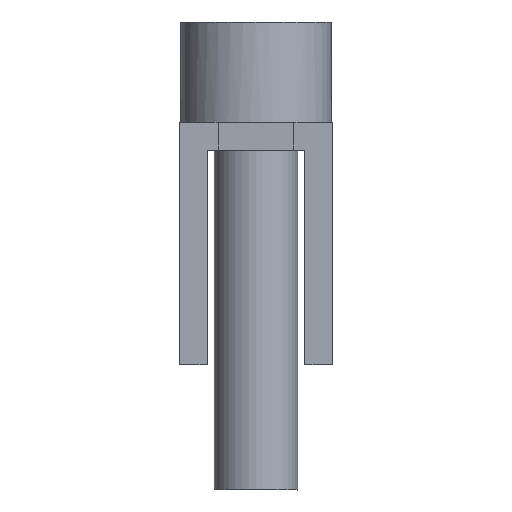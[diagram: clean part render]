
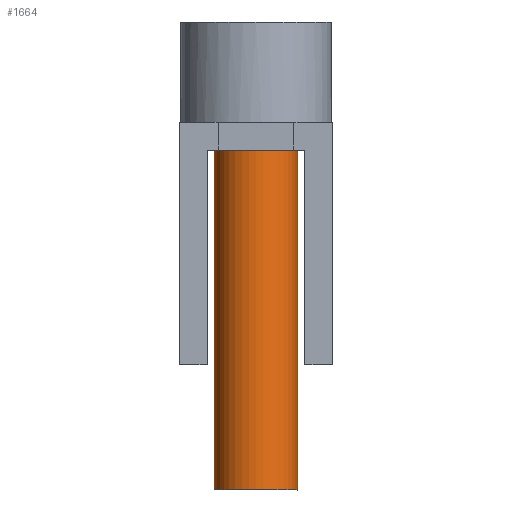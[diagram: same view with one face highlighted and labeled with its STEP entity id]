
A CAD part, left-side view. The second image highlights one B-rep face of the part: STEP entity #1664.
In plain terms, the highlighted cylindrical face has radius 1.5 mm (diameter 3 mm), a full revolution.
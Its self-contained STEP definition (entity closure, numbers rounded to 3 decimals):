
#1618=CARTESIAN_POINT('',(2.713,4.25,0.));
#1619=VERTEX_POINT('',#1618);
#1620=CARTESIAN_POINT('',(2.713,1.25,0.));
#1621=VERTEX_POINT('',#1620);
#1622=CARTESIAN_POINT('',(2.713,2.75,0.));
#1623=DIRECTION('',(0.,1.,0.));
#1624=DIRECTION('',(0.,0.,1.));
#1625=AXIS2_PLACEMENT_3D('',#1622,#1624,#1623);
#1626=CIRCLE('',#1625,1.5);
#1627=EDGE_CURVE('',#1619,#1621,#1626,.T.);
#1629=CARTESIAN_POINT('',(2.713,2.75,0.));
#1630=DIRECTION('',(0.,-1.,0.));
#1631=DIRECTION('',(0.,0.,1.));
#1632=AXIS2_PLACEMENT_3D('',#1629,#1631,#1630);
#1633=CIRCLE('',#1632,1.5);
#1634=EDGE_CURVE('',#1621,#1619,#1633,.T.);
#1639=CARTESIAN_POINT('',(2.713,2.75,12.2));
#1640=DIRECTION('',(0.,1.,0.));
#1641=DIRECTION('',(0.,0.,-1.));
#1642=AXIS2_PLACEMENT_3D('',#1639,#1641,#1640);
#1643=CYLINDRICAL_SURFACE('',#1642,1.5);
#1644=CARTESIAN_POINT('',(2.713,4.25,12.2));
#1645=VERTEX_POINT('',#1644);
#1646=CARTESIAN_POINT('',(2.713,2.75,12.2));
#1647=DIRECTION('',(0.,1.,0.));
#1648=DIRECTION('',(0.,0.,1.));
#1649=AXIS2_PLACEMENT_3D('',#1646,#1648,#1647);
#1650=CIRCLE('',#1649,1.5);
#1651=EDGE_CURVE('',#1645,#1645,#1650,.T.);
#1652=ORIENTED_EDGE('E143',*,*,#1651,.F.);
#1653=CARTESIAN_POINT('',(2.713,4.25,12.2));
#1654=DIRECTION('',(0.,0.,-1.));
#1655=VECTOR('',#1654,12.2);
#1656=LINE('',#1653,#1655);
#1657=EDGE_CURVE('',#1645,#1619,#1656,.T.);
#1658=ORIENTED_EDGE('E144',*,*,#1657,.T.);
#1659=ORIENTED_EDGE('E144',*,*,#1627,.T.);
#1660=ORIENTED_EDGE('E144',*,*,#1634,.T.);
#1661=ORIENTED_EDGE('E144',*,*,#1657,.F.);
#1662=EDGE_LOOP('',(#1652,#1658,#1659,#1660,#1661));
#1663=FACE_OUTER_BOUND('',#1662,.T.);
#1664=ADVANCED_FACE('F50',(#1663),#1643,.T.);
